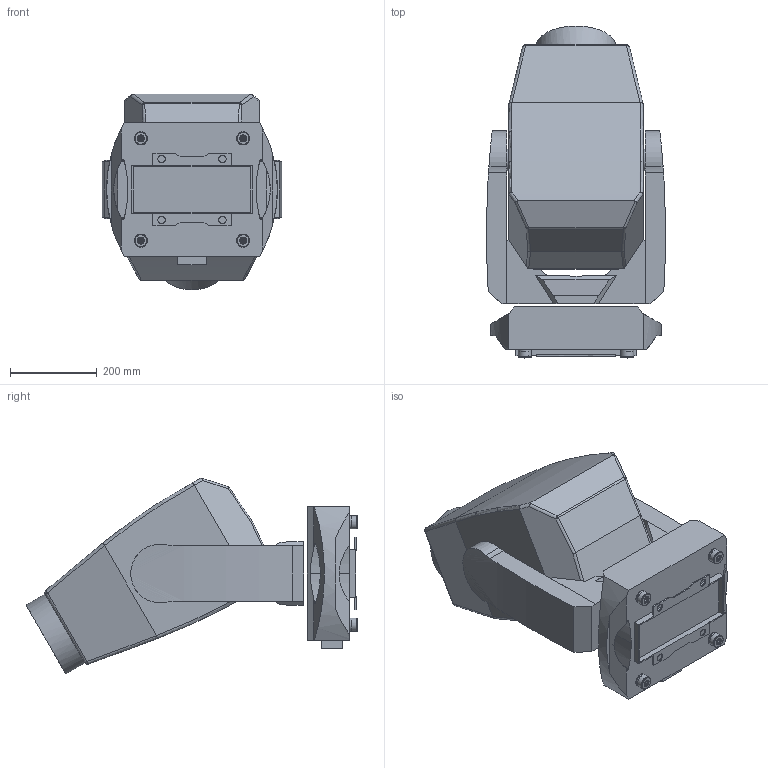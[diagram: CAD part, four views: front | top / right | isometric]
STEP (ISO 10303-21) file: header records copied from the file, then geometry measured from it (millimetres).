
FILE_DESCRIPTION(/* description */ (''),/* implementation_level */ '2;1');
FILE_NAME(/* name */ 'D:/dgooch/Documents/CADENG/PRO/MK3 Spot/30/Maverick MK3 Spot_30.step',/* time_stamp */ '2019-03-18T12:07:11-04:00',/* author */ (''),/* organization */ (''),/* preprocessor_version */ 'ST-DEVELOPER v17.2',/* originating_system */ 'Autodesk Translation Framework v7.6.0.251',/* authorisation */ '');
FILE_SCHEMA (('AUTOMOTIVE_DESIGN { 1 0 10303 214 3 1 1 }'));
Length unit declared in the file: millimetre
Products named in the file (8): Maverick MK3 Spot; Maverick MK2 Profile; Base; CD-JD30-21_ASM_1_ASM (1); JJ-D30-01_1 (1); JJ-D30-02_1 (1); Arms; Head_MK
Assembly tree (10 placements, depth 5):
  Maverick MK3 Spot
    Maverick MK2 Profile
      Base
        CD-JD30-21_ASM_1_ASM (1)  x4
          JJ-D30-01_1 (1)
          JJ-D30-02_1 (1)
      Arms
      Head_MK
Bounding box: 411.79 x 763.48 x 450.54 mm (x, y, z)
Volume: 54861106.8 mm3; surface area: 1664500.8 mm2
Topology: 12 solids, 12 shells, 413 faces, 1222 edges, 871 vertices
Faces by surface type: plane 176, cylinder 141, cone 60, bspline 16, torus 12, sphere 8
Full cylindrical faces by diameter (mm): 4.1 x4, 5 x40, 10 x8, 15 x16, 17 x4, 27 x16, 30 x12, 50 x2, 165.644 x1, 183.319 x1
Entity records: 9105 total; most frequent: CARTESIAN_POINT 2148, DIRECTION 1456, ORIENTED_EDGE 1418, EDGE_CURVE 709, AXIS2_PLACEMENT_3D 535, VERTEX_POINT 484, LINE 386, VECTOR 386
